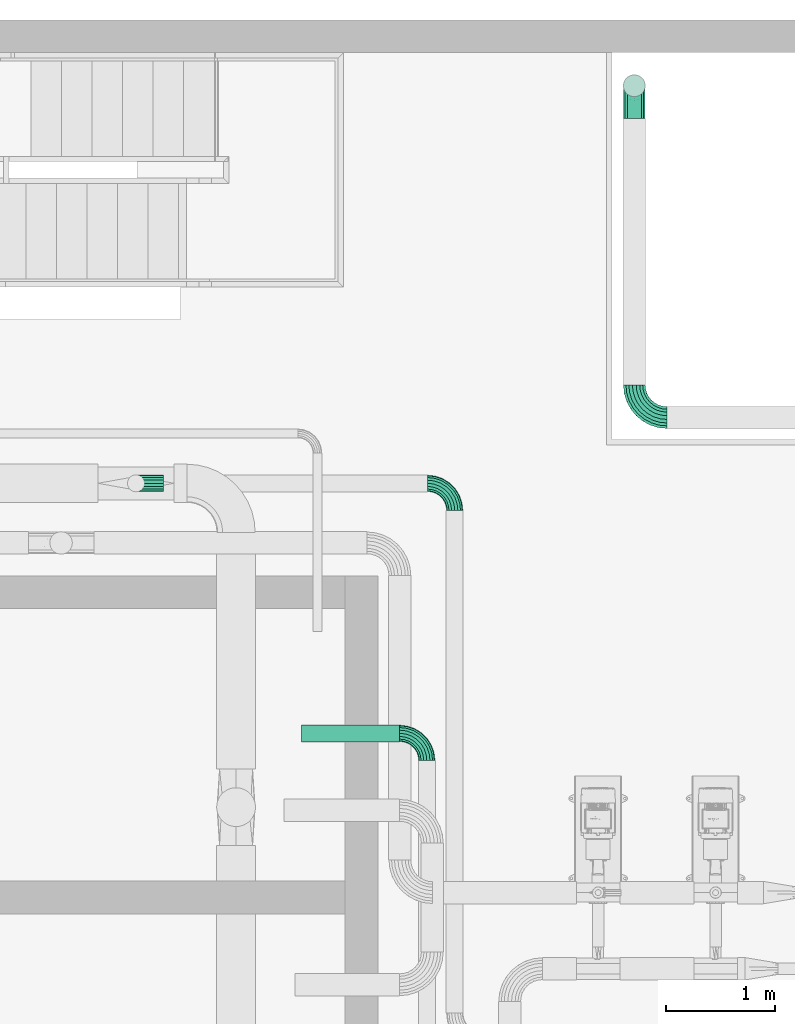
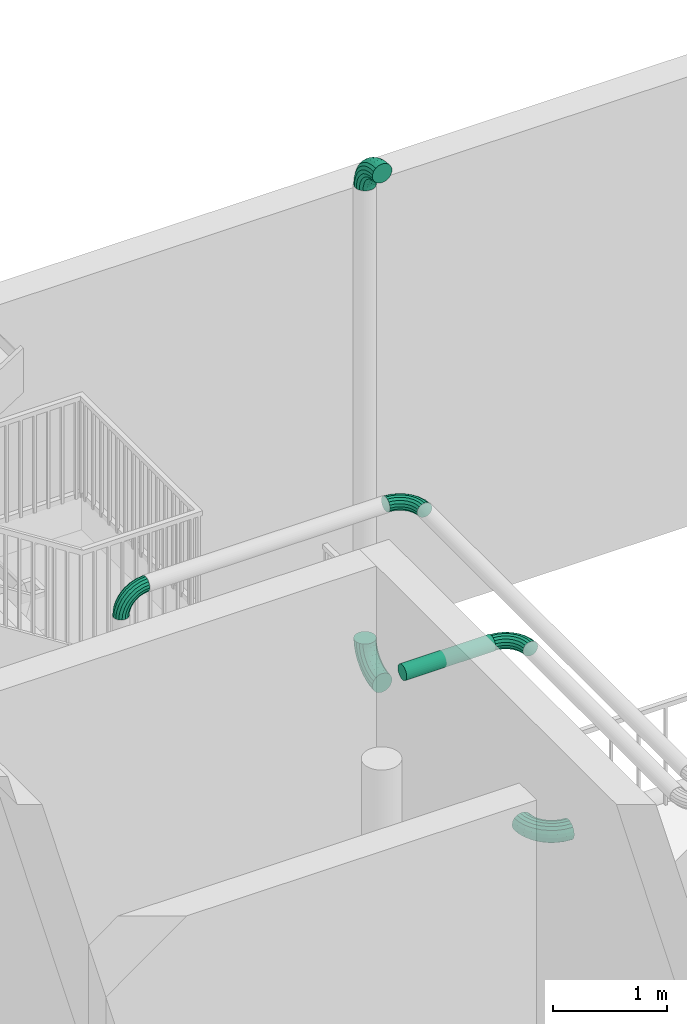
# One storey, part 18 of 28: 6 flow fittings, 1 flow segment.
"""IFC2X3 building model written with IfcOpenShell, lengths in millimetres."""

from ifc_helpers import new_model, entity, si_unit, converted_unit, direction, frame, frame_2d, origin, place, context, subcontext, project, spatial, circle, extrude, faceted_brep, source, transform, mapped, material, type_object, type_shapes, element, save


model = new_model("IFC2X3")

# Units and contexts
model_context = context("Model", 3, precision=0.01, world=origin(), true_north=direction((6.123031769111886e-17, 1.0)))
body_context = subcontext(model_context, "Body", "Model", "MODEL_VIEW")
ifc_project = project(units=[si_unit("LENGTHUNIT", "METRE", prefix="MILLI"), converted_unit("PLANEANGLEUNIT", "DEGREE", entity("IfcPlaneAngleMeasure", 0.017453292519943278), si_unit("PLANEANGLEUNIT", "RADIAN"), dimensions=[0, 0, 0, 0, 0, 0, 0]), si_unit("AREAUNIT", "SQUARE_METRE")], contexts=[model_context])

# Site, building, storey
site_placement = place(None, frame((7776.576483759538, 118.3519876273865, 0.0)))
site = spatial("IfcSite", under=ifc_project, at=site_placement, Name="Default", CompositionType="ELEMENT")
building_placement = place(site_placement, origin())
building = spatial("IfcBuilding", under=site, at=building_placement, Name="Bygning (endres i Project Information)", CompositionType="ELEMENT")
storey_placement = place(building_placement, frame((0.0, 0.0, 14000.0)))
storey = spatial("IfcBuildingStorey", under=building, at=storey_placement, Name="Plan U1 - Arbeid", CompositionType="ELEMENT", Elevation=14000.000000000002)

# Flow segment
ifc_material = material(Name="SS 2343 Rustfritt stål, prosessrør, generisk")
pipe_segment_type = type_object("IfcPipeSegmentType", Name="Pipe Types:AISI 304L Rustfritt", PredefinedType="NOTDEFINED", material=ifc_material)
flow_segment_placement = place(storey_placement, origin())
element("IfcFlowSegment", 1, at=flow_segment_placement, inside=storey, type_object=pipe_segment_type, Name="Pipe Types:AISI 304L Rustfritt", ObjectType="Pipe Types:AISI 304L Rustfritt", context=body_context, shape_type="SweptSolid", body=[
    extrude(circle(Radius=78.0, at=frame_2d((-4.331468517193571e-12, 0.0), x_axis=(1.0, 0.0))), frame((17124.00137486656, 28054.516074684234, 4500.0), z_axis=(1.0, 0.0, 0.0), x_axis=(0.0, 1.0, 0.0)), (0.0, 0.0, 1.0), 899.9999999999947),
])

# Flow fittings
pipe_fitting_type_1 = type_object("IfcPipeFittingType", Name="VA_prosess_rustfritt_bend_D+100:VA_prosess_rustfritt_bend_D+100", PredefinedType="NOTDEFINED", material=ifc_material)
shared_shape_1 = source(origin(), body_context, "Body", "Brep", [
    faceted_brep([(-177.68069646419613, -66.85157145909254, 0.0), (-178.95107627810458, -61.28567382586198, 28.701257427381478), (-250.0, -69.29096493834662, 28.701257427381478), (-250.0, -75.0, 0.0), (-182.56881190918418, -45.43533838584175, 53.033008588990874), (-250.0, -53.03300858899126, 53.033008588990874), (-187.98313590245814, -21.7136350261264, 69.29096493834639), (-250.0, -28.70125742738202, 69.29096493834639), (-194.36976651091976, 6.268021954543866, 75.0), (-250.0, 0.0, 75.0), (-200.7563971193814, 34.24967893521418, 69.29096493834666), (-250.0, 28.701257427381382, 69.29096493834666), (-206.17072111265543, 57.97138229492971, 53.033008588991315), (-250.0, 53.03300858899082, 53.033008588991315), (-209.78845674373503, 73.82171773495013, 28.70125742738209), (-250.0, 69.29096493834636, 28.70125742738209), (-211.05883655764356, 79.38761536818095, 0.0), (-250.0, 75.0, 0.0), (-209.78845674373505, 73.82171773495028, -28.70125742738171), (-250.0, 69.29096493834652, -28.70125742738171), (-206.17072111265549, 57.971382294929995, -53.03300858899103), (-250.0, 53.03300858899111, -53.03300858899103), (-200.75639711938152, 34.24967893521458, -69.29096493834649), (-250.0, 28.701257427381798, -69.29096493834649), (-194.36976651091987, 6.268021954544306, -75.0), (-250.0, 0.0, -75.0), (-187.98313590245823, -21.713635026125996, -69.29096493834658), (-250.0, -28.701257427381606, -69.29096493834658), (-182.56881190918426, -45.43533838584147, -53.033008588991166), (-250.0, -53.033008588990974, -53.033008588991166), (-178.95107627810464, -61.28567382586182, -28.7012574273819), (-250.0, -69.29096493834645, -28.7012574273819), (-108.9877847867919, -42.814882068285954, 0.0), (-111.4648422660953, -37.67121921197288, 28.701257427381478), (-118.5189051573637, -23.023306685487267, 53.033008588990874), (-129.07605633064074, -1.1011563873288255, 69.29096493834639), (-141.52906522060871, 24.75778302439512, 75.0), (-153.98207411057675, 50.6167224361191, 69.29096493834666), (-164.53922528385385, 72.53887273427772, 53.033008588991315), (-171.5932881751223, 87.18678526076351, 28.70125742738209), (-174.07034565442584, 92.33044811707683, 0.0), (-171.59328817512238, 87.18678526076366, -28.70125742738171), (-164.53922528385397, 72.53887273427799, -53.03300858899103), (-153.98207411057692, 50.616722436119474, -69.29096493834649), (-141.5290652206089, 24.757783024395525, -75.0), (-129.0760563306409, -1.1011563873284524, -69.29096493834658), (-118.51890515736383, -23.02330668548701, -53.033008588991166), (-111.46484226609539, -37.67121921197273, -28.7012574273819), (-47.365814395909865, -4.095231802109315, 0.0), (-50.92533953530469, 0.36827154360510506, 28.701257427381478), (-61.062009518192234, 13.079253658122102, 53.033008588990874), (-76.23260822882, 32.10258273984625, 69.29096493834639), (-94.12754953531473, 54.54212938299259, 75.0), (-112.02249084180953, 76.98167602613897, 69.29096493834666), (-127.19308955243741, 96.00500510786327, 53.033008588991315), (-137.32975953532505, 108.71598722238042, 28.70125742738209), (-140.88928467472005, 113.17949056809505, 0.0), (-137.32975953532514, 108.71598722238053, -28.70125742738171), (-127.19308955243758, 96.0050051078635, -53.03300858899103), (-112.02249084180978, 76.9816760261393, -69.29096493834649), (-94.12754953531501, 54.54212938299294, -75.0), (-76.23260822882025, 32.10258273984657, -69.29096493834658), (-61.06200951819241, 13.079253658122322, -53.033008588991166), (-50.92533953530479, 0.36827154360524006, -28.7012574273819), (4.095231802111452, 47.36581439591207, 0.0), (-0.36827154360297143, 50.9253395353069, 28.701257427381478), (-13.079253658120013, 61.06200951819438, 53.033008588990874), (-32.10258273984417, 76.23260822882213, 69.29096493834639), (-54.54212938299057, 94.12754953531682, 75.0), (-76.981676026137, 112.02249084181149, 69.29096493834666), (-96.00500510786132, 127.19308955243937, 53.033008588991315), (-108.71598722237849, 137.32975953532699, 28.70125742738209), (-113.17949056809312, 140.88928467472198, 0.0), (-108.71598722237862, 137.32975953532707, -28.70125742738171), (-96.00500510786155, 127.19308955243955, -53.03300858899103), (-76.98167602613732, 112.02249084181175, -69.29096493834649), (-54.542129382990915, 94.1275495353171, -75.0), (-32.1025827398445, 76.23260822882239, -69.29096493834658), (-13.079253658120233, 61.06200951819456, -53.033008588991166), (-0.3682715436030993, 50.925339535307, -28.7012574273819), (42.81488206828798, 108.98778478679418, 0.0), (37.671219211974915, 111.4648422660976, 28.701257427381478), (23.023306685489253, 118.51890515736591, 53.033008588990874), (1.1011563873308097, 129.0760563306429, 69.29096493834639), (-24.75778302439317, 141.52906522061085, 75.0), (-50.61672243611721, 153.98207411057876, 69.29096493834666), (-72.53887273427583, 164.53922528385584, 53.033008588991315), (-87.18678526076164, 171.59328817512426, 28.70125742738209), (-92.33044811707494, 174.0703456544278, 0.0), (-87.18678526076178, 171.59328817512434, -28.70125742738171), (-72.53887273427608, 164.53922528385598, -53.03300858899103), (-50.61672243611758, 153.98207411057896, -69.29096493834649), (-24.757783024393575, 141.52906522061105, -75.0), (1.101156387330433, 129.0760563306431, -69.29096493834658), (23.023306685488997, 118.51890515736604, -53.033008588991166), (37.67121921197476, 111.46484226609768, -28.7012574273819), (66.8515714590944, 177.68069646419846, 0.0), (61.285673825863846, 178.9510762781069, 28.701257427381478), (45.4353383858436, 182.56881190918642, 53.033008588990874), (21.713635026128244, 187.98313590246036, 69.29096493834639), (-6.268021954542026, 194.36976651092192, 75.0), (-34.24967893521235, 200.75639711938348, 69.29096493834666), (-57.9713822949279, 206.17072111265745, 53.033008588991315), (-73.82171773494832, 209.78845674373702, 28.70125742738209), (-79.38761536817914, 211.05883655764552, 0.0), (-73.82171773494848, 209.78845674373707, -28.70125742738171), (-57.97138229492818, 206.1707211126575, -53.03300858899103), (-34.249678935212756, 200.75639711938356, -69.29096493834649), (-6.268021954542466, 194.36976651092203, -75.0), (21.71363502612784, 187.98313590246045, -69.29096493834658), (45.43533838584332, 182.5688119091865, -53.033008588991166), (61.28567382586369, 178.95107627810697, -28.7012574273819), (75.0, 250.0, 0.0), (69.29096493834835, 250.0, 28.701257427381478), (53.033008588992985, 250.0, 53.033008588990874), (28.701257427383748, 250.0, 69.29096493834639), (0.0, 250.0, 75.0), (-28.701257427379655, 250.0, 69.29096493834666), (-53.03300858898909, 250.0, 53.033008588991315), (-69.29096493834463, 250.0, 28.70125742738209), (-75.0, 250.0, 0.0), (-69.29096493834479, 250.0, -28.70125742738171), (-53.03300858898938, 250.0, -53.03300858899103), (-28.70125742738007, 250.0, -69.29096493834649), (0.0, 250.0, -75.0), (28.701257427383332, 250.0, -69.29096493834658), (53.0330085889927, 250.0, -53.033008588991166), (69.29096493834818, 250.0, -28.7012574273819)], [[[0, 1, 2, 3]], [[1, 4, 5, 2]], [[4, 6, 7, 5]], [[6, 8, 9, 7]], [[8, 10, 11, 9]], [[10, 12, 13, 11]], [[12, 14, 15, 13]], [[14, 16, 17, 15]], [[16, 18, 19, 17]], [[18, 20, 21, 19]], [[20, 22, 23, 21]], [[22, 24, 25, 23]], [[24, 26, 27, 25]], [[26, 28, 29, 27]], [[28, 30, 31, 29]], [[30, 0, 3, 31]], [[32, 33, 1, 0]], [[33, 34, 4, 1]], [[34, 35, 6, 4]], [[35, 36, 8, 6]], [[36, 37, 10, 8]], [[37, 38, 12, 10]], [[38, 39, 14, 12]], [[39, 40, 16, 14]], [[40, 41, 18, 16]], [[41, 42, 20, 18]], [[42, 43, 22, 20]], [[43, 44, 24, 22]], [[44, 45, 26, 24]], [[45, 46, 28, 26]], [[46, 47, 30, 28]], [[47, 32, 0, 30]], [[48, 49, 33, 32]], [[49, 50, 34, 33]], [[50, 51, 35, 34]], [[51, 52, 36, 35]], [[52, 53, 37, 36]], [[53, 54, 38, 37]], [[54, 55, 39, 38]], [[55, 56, 40, 39]], [[56, 57, 41, 40]], [[57, 58, 42, 41]], [[58, 59, 43, 42]], [[59, 60, 44, 43]], [[60, 61, 45, 44]], [[61, 62, 46, 45]], [[62, 63, 47, 46]], [[63, 48, 32, 47]], [[64, 65, 49, 48]], [[65, 66, 50, 49]], [[66, 67, 51, 50]], [[67, 68, 52, 51]], [[68, 69, 53, 52]], [[69, 70, 54, 53]], [[70, 71, 55, 54]], [[71, 72, 56, 55]], [[72, 73, 57, 56]], [[73, 74, 58, 57]], [[74, 75, 59, 58]], [[75, 76, 60, 59]], [[76, 77, 61, 60]], [[77, 78, 62, 61]], [[78, 79, 63, 62]], [[79, 64, 48, 63]], [[80, 81, 65, 64]], [[81, 82, 66, 65]], [[82, 83, 67, 66]], [[83, 84, 68, 67]], [[84, 85, 69, 68]], [[85, 86, 70, 69]], [[86, 87, 71, 70]], [[87, 88, 72, 71]], [[88, 89, 73, 72]], [[89, 90, 74, 73]], [[90, 91, 75, 74]], [[91, 92, 76, 75]], [[92, 93, 77, 76]], [[93, 94, 78, 77]], [[94, 95, 79, 78]], [[95, 80, 64, 79]], [[96, 97, 81, 80]], [[97, 98, 82, 81]], [[98, 99, 83, 82]], [[99, 100, 84, 83]], [[100, 101, 85, 84]], [[101, 102, 86, 85]], [[102, 103, 87, 86]], [[103, 104, 88, 87]], [[104, 105, 89, 88]], [[105, 106, 90, 89]], [[106, 107, 91, 90]], [[107, 108, 92, 91]], [[108, 109, 93, 92]], [[109, 110, 94, 93]], [[110, 111, 95, 94]], [[111, 96, 80, 95]], [[112, 113, 97, 96]], [[113, 114, 98, 97]], [[114, 115, 99, 98]], [[115, 116, 100, 99]], [[116, 117, 101, 100]], [[117, 118, 102, 101]], [[118, 119, 103, 102]], [[119, 120, 104, 103]], [[120, 121, 105, 104]], [[121, 122, 106, 105]], [[122, 123, 107, 106]], [[123, 124, 108, 107]], [[124, 125, 109, 108]], [[125, 126, 110, 109]], [[126, 127, 111, 110]], [[127, 112, 96, 111]], [[3, 2, 5, 7, 9, 11, 13, 15, 17, 19, 21, 23, 25, 27, 29, 31]], [[127, 126, 125, 124, 123, 122, 121, 120, 119, 118, 117, 116, 115, 114, 113, 112]]]),
])
type_shapes(pipe_fitting_type_1, [shared_shape_1])
for number, where, z_axis, x_axis in (
    (2, (18530.001374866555, 30347.75730578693, 4500.0), (0.0, 0.0, 1.0), (0.0, 1.0, 0.0)),
    (3, (15606.145518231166, 30347.75730578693, 4500.0), (0.0, -1.0, 0.0), (-1.0, 0.0, 0.0)),
    (4, (18274.00137486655, 28054.51607468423, 4500.0), (0.0, 0.0, 1.0), (0.0, 1.0, 0.0)),
):
    element("IfcFlowFitting", number, at=place(storey_placement, frame(where, z_axis=z_axis, x_axis=x_axis)), inside=storey, type_object=pipe_fitting_type_1, material=ifc_material, Name="VA_prosess_rustfritt_bend_D+100:VA_prosess_rustfritt_bend_D+100", ObjectType="VA_prosess_rustfritt_bend_D+100:VA_prosess_rustfritt_bend_D+100", context=body_context, shape_type="MappedRepresentation", body=[
        mapped(shared_shape_1, transform((0.0, 0.0, 0.0), scale=1.0)),
    ])
pipe_fitting_type_2 = type_object("IfcPipeFittingType", Name="VA_prosess_rustfritt_bend_D+100:VA_prosess_rustfritt_bend_D+100", PredefinedType="NOTDEFINED", material=ifc_material)
shared_shape_2 = source(origin(), body_context, "Body", "Brep", [
    faceted_brep([(-221.96387119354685, -92.314112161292, 0.0), (-223.1404097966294, -86.39925317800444, 34.202014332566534), (-300.0, -93.96926207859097, 34.202014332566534), (-300.0, -100.0, 0.0), (-226.52811768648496, -69.36809551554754, 64.27876096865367), (-300.0, -76.60444431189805, 64.27876096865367), (-231.71838729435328, -43.274848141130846, 86.60254037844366), (-300.0, -50.0, 86.60254037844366), (-238.08519550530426, -11.266741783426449, 98.48077530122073), (-300.0, -17.36481776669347, 98.48077530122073), (-244.86061128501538, 22.79557354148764, 98.48077530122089), (-300.0, 17.36481776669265, 98.48077530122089), (-251.22741949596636, 54.80367989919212, 86.60254037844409), (-300.0, 50.0, 86.60254037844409), (-256.41768910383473, 80.89692727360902, 64.27876096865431), (-300.0, 76.60444431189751, 64.27876096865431), (-259.8053969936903, 97.92808493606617, 34.202014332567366), (-300.0, 93.96926207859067, 34.202014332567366), (-260.9819355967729, 103.84294391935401, 0.0), (-300.0, 100.0, 0.0), (-259.8053969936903, 97.92808493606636, -34.20201433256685), (-300.0, 93.96926207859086, -34.20201433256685), (-256.4176891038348, 80.89692727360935, -64.2787609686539), (-300.0, 76.60444431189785, -64.2787609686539), (-251.22741949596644, 54.80367989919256, -86.60254037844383), (-300.0, 50.0, -86.60254037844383), (-244.86061128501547, 22.795573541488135, -98.48077530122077), (-300.0, 17.364817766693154, -98.48077530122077), (-238.08519550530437, -11.26674178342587, -98.48077530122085), (-300.0, -17.36481776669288, -98.48077530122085), (-231.71838729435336, -43.27484814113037, -86.60254037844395), (-300.0, -50.0, -86.60254037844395), (-226.52811768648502, -69.3680955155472, -64.27876096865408), (-300.0, -76.6044443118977, -64.27876096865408), (-223.14040979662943, -86.39925317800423, -34.2020143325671), (-300.0, -93.96926207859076, -34.2020143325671), (-146.9266270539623, -69.55181300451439, 0.0), (-149.2344905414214, -63.98013767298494, 34.202014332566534), (-155.87971860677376, -47.937137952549, 64.27876096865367), (-166.06079867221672, -23.357836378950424, 86.60254037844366), (-178.54974222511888, 6.79314052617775, 98.48077530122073), (-191.8401983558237, 38.87913996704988, 98.48077530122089), (-204.32914190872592, 69.03011687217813, 86.60254037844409), (-214.51022197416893, 93.6094184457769, 64.27876096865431), (-221.15545003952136, 109.65241816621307, 34.202014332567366), (-223.46331352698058, 115.2240934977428, 0.0), (-221.15545003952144, 109.65241816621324, -34.20201433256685), (-214.51022197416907, 93.60941844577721, -64.2787609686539), (-204.3291419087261, 69.03011687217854, -86.60254037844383), (-191.8401983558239, 38.87913996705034, -98.48077530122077), (-178.5497422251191, 6.7931405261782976, -98.48077530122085), (-166.0607986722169, -23.357836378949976, -86.60254037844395), (-155.8797186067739, -47.937137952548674, -64.27876096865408), (-149.23449054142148, -63.98013767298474, -34.2020143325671), (-77.77190679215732, -32.58784492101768, 0.0), (-81.12240526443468, -27.573469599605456, 34.202014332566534), (-90.76978111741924, -13.135151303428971, 64.27876096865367), (-105.5504184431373, 8.985635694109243, 86.60254037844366), (-123.68155424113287, 36.120798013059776, 98.48077530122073), (-142.97630594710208, 64.997434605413, 98.48077530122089), (-161.1074417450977, 92.13259692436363, 86.60254037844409), (-175.88807907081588, 114.253383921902, 64.27876096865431), (-185.53545492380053, 128.69170221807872, 34.202014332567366), (-188.88595339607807, 133.70607753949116, 0.0), (-185.53545492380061, 128.69170221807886, -34.20201433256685), (-175.88807907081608, 114.25338392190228, -64.2787609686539), (-161.10744174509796, 92.132596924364, -86.60254037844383), (-142.97630594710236, 64.99743460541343, -98.48077530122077), (-123.68155424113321, 36.120798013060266, -98.48077530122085), (-105.55041844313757, 8.985635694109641, -86.60254037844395), (-90.76978111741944, -13.135151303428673, -64.27876096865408), (-81.12240526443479, -27.573469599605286, -34.2020143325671), (-17.15728752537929, 17.157287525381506, 0.0), (-21.421663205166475, 21.42166320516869, 34.202014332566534), (-33.70044360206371, 33.700443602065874, 64.27876096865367), (-52.51262658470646, 52.512626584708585, 86.60254037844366), (-75.58918524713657, 75.58918524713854, 98.48077530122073), (-100.14674604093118, 100.14674604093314, 98.48077530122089), (-123.22330470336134, 123.22330470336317, 86.60254037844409), (-142.03548768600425, 142.035487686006, 64.27876096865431), (-154.3142680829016, 154.3142680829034, 34.202014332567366), (-158.578643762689, 158.57864376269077, 0.0), (-154.31426808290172, 154.31426808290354, -34.20201433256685), (-142.03548768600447, 142.03548768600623, -64.2787609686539), (-123.22330470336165, 123.2233047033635, -86.60254037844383), (-100.14674604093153, 100.1467460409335, -98.48077530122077), (-75.58918524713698, 75.58918524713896, -98.48077530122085), (-52.51262658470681, 52.512626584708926, -86.60254037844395), (-33.700443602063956, 33.70044360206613, -64.27876096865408), (-21.42166320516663, 21.421663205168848, -34.2020143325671), (32.58784492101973, 77.77190679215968, 0.0), (27.573469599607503, 81.12240526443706, 34.202014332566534), (13.135151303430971, 90.76978111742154, 64.27876096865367), (-8.985635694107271, 105.55041844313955, 86.60254037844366), (-36.1207980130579, 123.68155424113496, 98.48077530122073), (-64.99743460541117, 142.97630594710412, 98.48077530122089), (-92.13259692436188, 161.10744174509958, 86.60254037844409), (-114.25338392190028, 175.88807907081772, 64.27876096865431), (-128.69170221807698, 185.53545492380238, 34.202014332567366), (-133.70607753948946, 188.8859533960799, 0.0), (-128.69170221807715, 185.5354549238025, -34.20201433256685), (-114.25338392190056, 175.8880790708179, -64.2787609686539), (-92.13259692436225, 161.10744174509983, -86.60254037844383), (-64.99743460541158, 142.9763059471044, -98.48077530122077), (-36.12079801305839, 123.68155424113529, -98.48077530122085), (-8.985635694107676, 105.55041844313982, -86.60254037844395), (13.13515130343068, 90.76978111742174, -64.27876096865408), (27.573469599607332, 81.12240526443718, -34.2020143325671), (69.55181300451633, 146.92662705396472, 0.0), (63.98013767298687, 149.23449054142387, 34.202014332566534), (47.937137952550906, 155.87971860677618, 64.27876096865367), (23.357836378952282, 166.06079867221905, 86.60254037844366), (-6.793140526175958, 178.54974222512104, 98.48077530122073), (-38.879139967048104, 191.8401983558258, 98.48077530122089), (-69.03011687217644, 204.32914190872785, 86.60254037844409), (-93.60941844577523, 214.5102219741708, 64.27876096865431), (-109.65241816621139, 221.15545003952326, 34.202014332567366), (-115.22409349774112, 223.46331352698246, 0.0), (-109.65241816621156, 221.15545003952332, -34.20201433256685), (-93.60941844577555, 214.51022197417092, -64.2787609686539), (-69.03011687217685, 204.32914190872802, -86.60254037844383), (-38.87913996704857, 191.840198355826, -98.48077530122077), (-6.793140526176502, 178.54974222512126, -98.48077530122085), (23.357836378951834, 166.06079867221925, -86.60254037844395), (47.93713795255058, 155.87971860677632, -64.27876096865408), (63.98013767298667, 149.23449054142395, -34.2020143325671), (92.31411216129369, 221.96387119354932, 0.0), (86.39925317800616, 223.1404097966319, 34.202014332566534), (69.36809551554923, 226.52811768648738, 64.27876096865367), (43.27484814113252, 231.71838729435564, 86.60254037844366), (11.266741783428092, 238.08519550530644, 98.48077530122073), (-22.795573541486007, 244.86061128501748, 98.48077530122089), (-54.80367989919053, 251.22741949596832, 86.60254037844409), (-80.89692727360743, 256.4176891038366, 64.27876096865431), (-97.9280849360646, 259.80539699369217, 34.202014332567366), (-103.84294391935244, 260.9819355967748, 0.0), (-97.92808493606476, 259.8053969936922, -34.20201433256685), (-80.89692727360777, 256.41768910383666, -64.2787609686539), (-54.80367989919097, 251.2274194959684, -86.60254037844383), (-22.795573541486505, 244.8606112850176, -98.48077530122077), (11.266741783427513, 238.08519550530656, -98.48077530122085), (43.27484814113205, 231.71838729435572, -86.60254037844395), (69.36809551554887, 226.52811768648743, -64.27876096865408), (86.39925317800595, 223.14040979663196, -34.2020143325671), (100.0, 300.0, 0.0), (93.96926207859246, 300.0, 34.202014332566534), (76.60444431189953, 300.0, 64.27876096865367), (50.0, 300.0, 86.60254037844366), (17.36481776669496, 300.0, 98.48077530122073), (-17.36481776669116, 300.0, 98.48077530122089), (-50.0, 300.0, 86.60254037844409), (-76.60444431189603, 300.0, 64.27876096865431), (-93.9692620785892, 300.0, 34.202014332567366), (-100.0, 300.0, 0.0), (-93.96926207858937, 300.0, -34.20201433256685), (-76.60444431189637, 300.0, -64.2787609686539), (-50.0, 300.0, -86.60254037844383), (-17.364817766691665, 300.0, -98.48077530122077), (17.36481776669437, 300.0, -98.48077530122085), (50.0, 300.0, -86.60254037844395), (76.60444431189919, 300.0, -64.27876096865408), (93.96926207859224, 300.0, -34.2020143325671)], [[[0, 1, 2, 3]], [[1, 4, 5, 2]], [[4, 6, 7, 5]], [[6, 8, 9, 7]], [[8, 10, 11, 9]], [[10, 12, 13, 11]], [[12, 14, 15, 13]], [[14, 16, 17, 15]], [[16, 18, 19, 17]], [[18, 20, 21, 19]], [[20, 22, 23, 21]], [[22, 24, 25, 23]], [[24, 26, 27, 25]], [[26, 28, 29, 27]], [[28, 30, 31, 29]], [[30, 32, 33, 31]], [[32, 34, 35, 33]], [[34, 0, 3, 35]], [[36, 37, 1, 0]], [[37, 38, 4, 1]], [[38, 39, 6, 4]], [[39, 40, 8, 6]], [[40, 41, 10, 8]], [[41, 42, 12, 10]], [[42, 43, 14, 12]], [[43, 44, 16, 14]], [[44, 45, 18, 16]], [[45, 46, 20, 18]], [[46, 47, 22, 20]], [[47, 48, 24, 22]], [[48, 49, 26, 24]], [[49, 50, 28, 26]], [[50, 51, 30, 28]], [[51, 52, 32, 30]], [[52, 53, 34, 32]], [[53, 36, 0, 34]], [[54, 55, 37, 36]], [[55, 56, 38, 37]], [[56, 57, 39, 38]], [[57, 58, 40, 39]], [[58, 59, 41, 40]], [[59, 60, 42, 41]], [[60, 61, 43, 42]], [[61, 62, 44, 43]], [[62, 63, 45, 44]], [[63, 64, 46, 45]], [[64, 65, 47, 46]], [[65, 66, 48, 47]], [[66, 67, 49, 48]], [[67, 68, 50, 49]], [[68, 69, 51, 50]], [[69, 70, 52, 51]], [[70, 71, 53, 52]], [[71, 54, 36, 53]], [[72, 73, 55, 54]], [[73, 74, 56, 55]], [[74, 75, 57, 56]], [[75, 76, 58, 57]], [[76, 77, 59, 58]], [[77, 78, 60, 59]], [[78, 79, 61, 60]], [[79, 80, 62, 61]], [[80, 81, 63, 62]], [[81, 82, 64, 63]], [[82, 83, 65, 64]], [[83, 84, 66, 65]], [[84, 85, 67, 66]], [[85, 86, 68, 67]], [[86, 87, 69, 68]], [[87, 88, 70, 69]], [[88, 89, 71, 70]], [[89, 72, 54, 71]], [[90, 91, 73, 72]], [[91, 92, 74, 73]], [[92, 93, 75, 74]], [[93, 94, 76, 75]], [[94, 95, 77, 76]], [[95, 96, 78, 77]], [[96, 97, 79, 78]], [[97, 98, 80, 79]], [[98, 99, 81, 80]], [[99, 100, 82, 81]], [[100, 101, 83, 82]], [[101, 102, 84, 83]], [[102, 103, 85, 84]], [[103, 104, 86, 85]], [[104, 105, 87, 86]], [[105, 106, 88, 87]], [[106, 107, 89, 88]], [[107, 90, 72, 89]], [[108, 109, 91, 90]], [[109, 110, 92, 91]], [[110, 111, 93, 92]], [[111, 112, 94, 93]], [[112, 113, 95, 94]], [[113, 114, 96, 95]], [[114, 115, 97, 96]], [[115, 116, 98, 97]], [[116, 117, 99, 98]], [[117, 118, 100, 99]], [[118, 119, 101, 100]], [[119, 120, 102, 101]], [[120, 121, 103, 102]], [[121, 122, 104, 103]], [[122, 123, 105, 104]], [[123, 124, 106, 105]], [[124, 125, 107, 106]], [[125, 108, 90, 107]], [[126, 127, 109, 108]], [[127, 128, 110, 109]], [[128, 129, 111, 110]], [[129, 130, 112, 111]], [[130, 131, 113, 112]], [[131, 132, 114, 113]], [[132, 133, 115, 114]], [[133, 134, 116, 115]], [[134, 135, 117, 116]], [[135, 136, 118, 117]], [[136, 137, 119, 118]], [[137, 138, 120, 119]], [[138, 139, 121, 120]], [[139, 140, 122, 121]], [[140, 141, 123, 122]], [[141, 142, 124, 123]], [[142, 143, 125, 124]], [[143, 126, 108, 125]], [[144, 145, 127, 126]], [[145, 146, 128, 127]], [[146, 147, 129, 128]], [[147, 148, 130, 129]], [[148, 149, 131, 130]], [[149, 150, 132, 131]], [[150, 151, 133, 132]], [[151, 152, 134, 133]], [[152, 153, 135, 134]], [[153, 154, 136, 135]], [[154, 155, 137, 136]], [[155, 156, 138, 137]], [[156, 157, 139, 138]], [[157, 158, 140, 139]], [[158, 159, 141, 140]], [[159, 160, 142, 141]], [[160, 161, 143, 142]], [[161, 144, 126, 143]], [[3, 2, 5, 7, 9, 11, 13, 15, 17, 19, 21, 23, 25, 27, 29, 31, 33, 35]], [[161, 160, 159, 158, 157, 156, 155, 154, 153, 152, 151, 150, 149, 148, 147, 146, 145, 144]]]),
])
type_shapes(pipe_fitting_type_2, [shared_shape_2])
for number, where, z_axis, x_axis in (
    (5, (20177.001374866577, 33994.7573057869, 5338.419710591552), (1.0, 0.0, 0.0), (0.0, 0.0, 1.0)),
    (6, (20177.001374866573, 33994.7573057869, -103.0), (-1.0, 0.0, 0.0), (0.0, 0.0, -1.0)),
    (7, (20177.001374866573, 30950.757305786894, -103.0), (0.0, 0.0, 1.0), (0.0, -1.0, 0.0)),
):
    element("IfcFlowFitting", number, at=place(storey_placement, frame(where, z_axis=z_axis, x_axis=x_axis)), inside=storey, type_object=pipe_fitting_type_2, material=ifc_material, Name="VA_prosess_rustfritt_bend_D+100:VA_prosess_rustfritt_bend_D+100", ObjectType="VA_prosess_rustfritt_bend_D+100:VA_prosess_rustfritt_bend_D+100", context=body_context, shape_type="MappedRepresentation", body=[
        mapped(shared_shape_2, transform((0.0, 0.0, 0.0), scale=1.0)),
    ])

save(model, "model.ifc")
